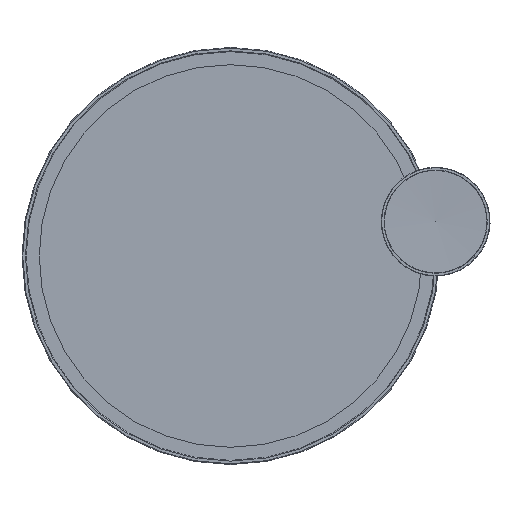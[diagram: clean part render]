
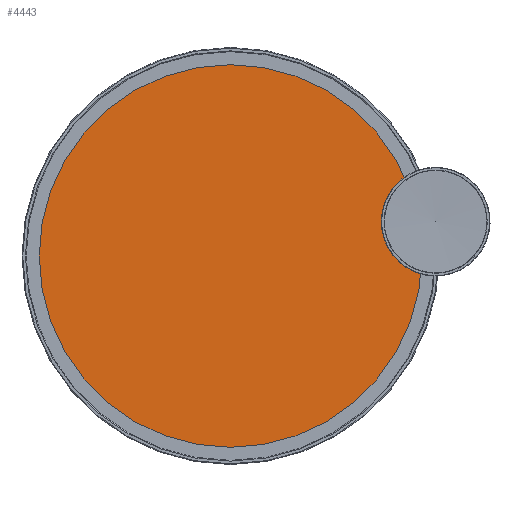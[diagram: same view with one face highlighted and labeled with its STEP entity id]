
A CAD part, front view. The second image highlights one B-rep face of the part: STEP entity #4443.
In plain terms, the highlighted planar face has unit normal (0, -1, 0).
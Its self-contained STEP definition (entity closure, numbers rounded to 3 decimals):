
#1015=ORIENTED_EDGE('',*,*,#2313,.F.);
#2313=EDGE_CURVE('',#2967,#2967,#3419,.T.);
#2967=VERTEX_POINT('',#6672);
#3419=CIRCLE('',#4819,278.);
#3646=EDGE_LOOP('',(#1015));
#3978=FACE_BOUND('',#3646,.T.);
#4295=PLANE('',#4821);
#4443=ADVANCED_FACE('',(#3978),#4295,.F.);
#4819=AXIS2_PLACEMENT_3D('',#6671,#5332,#5333);
#4821=AXIS2_PLACEMENT_3D('',#6674,#5336,#5337);
#5332=DIRECTION('',(0.,1.,0.));
#5333=DIRECTION('',(1.,0.,0.));
#5336=DIRECTION('',(0.,1.,0.));
#5337=DIRECTION('',(0.,0.,1.));
#6671=CARTESIAN_POINT('',(139.493,0.,0.));
#6672=CARTESIAN_POINT('',(417.493,0.,0.));
#6674=CARTESIAN_POINT('',(139.493,0.,0.));
